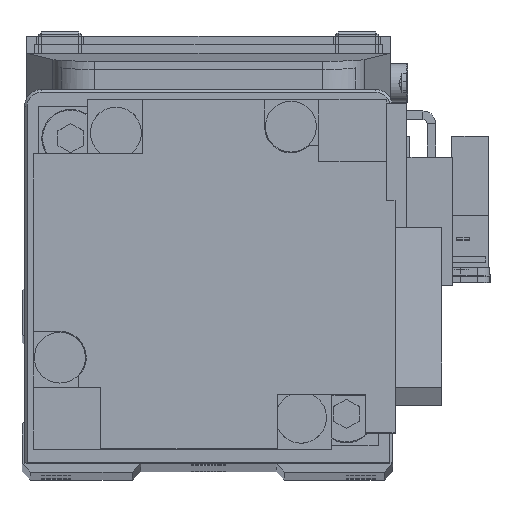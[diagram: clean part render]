
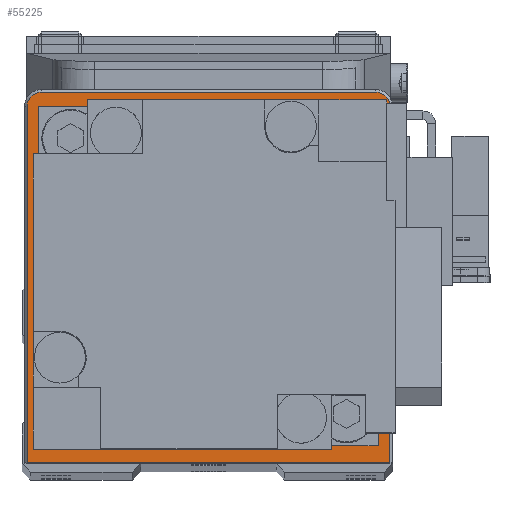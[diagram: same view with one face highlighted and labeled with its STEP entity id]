
A CAD part, top view. The second image highlights one B-rep face of the part: STEP entity #55225.
In plain terms, the highlighted planar face has unit normal (0, 0, 1).
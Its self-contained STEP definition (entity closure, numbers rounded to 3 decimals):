
#253 = LINE ( 'NONE', #28162, #53326 ) ;
#1161 = DIRECTION ( 'NONE',  ( 0., 1., 0. ) ) ;
#1368 = VERTEX_POINT ( 'NONE', #2123 ) ;
#2123 = CARTESIAN_POINT ( 'NONE',  ( -21.4, -6.974, 334. ) ) ;
#4319 = DIRECTION ( 'NONE',  ( 1., 0., 0. ) ) ;
#5510 = VERTEX_POINT ( 'NONE', #58757 ) ;
#5855 = ORIENTED_EDGE ( 'NONE', *, *, #12601, .T. ) ;
#8311 = LINE ( 'NONE', #20800, #64332 ) ;
#9810 = EDGE_CURVE ( 'NONE', #1368, #61694, #50701, .T. ) ;
#11026 = DIRECTION ( 'NONE',  ( 0., 0., 1. ) ) ;
#12172 = CARTESIAN_POINT ( 'NONE',  ( 21.4, -6.974, 334. ) ) ;
#12601 = EDGE_CURVE ( 'NONE', #5510, #70234, #253, .T. ) ;
#15730 = AXIS2_PLACEMENT_3D ( 'NONE', #70536, #52093, #52379 ) ;
#16902 = CARTESIAN_POINT ( 'NONE',  ( 19.7, 35.026, 334. ) ) ;
#17795 = VECTOR ( 'NONE', #69485, 1000. ) ;
#18855 = ORIENTED_EDGE ( 'NONE', *, *, #70977, .T. ) ;
#20540 = CARTESIAN_POINT ( 'NONE',  ( 21.4, 35.026, 334. ) ) ;
#20739 = EDGE_CURVE ( 'NONE', #81273, #50687, #52206, .T. ) ;
#20800 = CARTESIAN_POINT ( 'NONE',  ( -21.4, -6.974, 334. ) ) ;
#23684 = DIRECTION ( 'NONE',  ( 1., 0., 0. ) ) ;
#24510 = FACE_OUTER_BOUND ( 'NONE', #79321, .T. ) ;
#24793 = CARTESIAN_POINT ( 'NONE',  ( -21.7, -6.974, 334. ) ) ;
#28162 = CARTESIAN_POINT ( 'NONE',  ( -19.7, 36.726, 334. ) ) ;
#30080 = DIRECTION ( 'NONE',  ( 0., 0., 1. ) ) ;
#30354 = CARTESIAN_POINT ( 'NONE',  ( 0., 15.026, 334. ) ) ;
#32634 = CARTESIAN_POINT ( 'NONE',  ( 0., 15.026, 334. ) ) ;
#32657 = ORIENTED_EDGE ( 'NONE', *, *, #70965, .T. ) ;
#33113 = CIRCLE ( 'NONE', #76652, 10. ) ;
#34518 = ORIENTED_EDGE ( 'NONE', *, *, #58885, .F. ) ;
#34887 = DIRECTION ( 'NONE',  ( -1., 0., 0. ) ) ;
#34977 = CARTESIAN_POINT ( 'NONE',  ( -10., 15.026, 334. ) ) ;
#37368 = DIRECTION ( 'NONE',  ( 1., 0., 0. ) ) ;
#37952 = AXIS2_PLACEMENT_3D ( 'NONE', #32634, #45534, #39956 ) ;
#38582 = EDGE_CURVE ( 'NONE', #70234, #58014, #74634, .T. ) ;
#39563 = ORIENTED_EDGE ( 'NONE', *, *, #9810, .T. ) ;
#39956 = DIRECTION ( 'NONE',  ( 1., 0., 0. ) ) ;
#41231 = VERTEX_POINT ( 'NONE', #44928 ) ;
#43097 = AXIS2_PLACEMENT_3D ( 'NONE', #48843, #80391, #23684 ) ;
#43448 = AXIS2_PLACEMENT_3D ( 'NONE', #16902, #11026, #4319 ) ;
#43728 = CIRCLE ( 'NONE', #43448, 1.7 ) ;
#44928 = CARTESIAN_POINT ( 'NONE',  ( 21.4, 35.026, 334. ) ) ;
#45534 = DIRECTION ( 'NONE',  ( 0., 0., 1. ) ) ;
#45843 = ORIENTED_EDGE ( 'NONE', *, *, #38582, .T. ) ;
#46312 = VECTOR ( 'NONE', #1161, 1000. ) ;
#48843 = CARTESIAN_POINT ( 'NONE',  ( -19.7, 35.026, 334. ) ) ;
#49014 = EDGE_LOOP ( 'NONE', ( #70384, #34518 ) ) ;
#50687 = VERTEX_POINT ( 'NONE', #70410 ) ;
#50701 = LINE ( 'NONE', #24793, #17795 ) ;
#51496 = DIRECTION ( 'NONE',  ( 0., -1., 0. ) ) ;
#52093 = DIRECTION ( 'NONE',  ( 0., 0., 1. ) ) ;
#52206 = CIRCLE ( 'NONE', #37952, 10. ) ;
#52379 = DIRECTION ( 'NONE',  ( 1., 0., 0. ) ) ;
#53326 = VECTOR ( 'NONE', #34887, 1000. ) ;
#55225 = ADVANCED_FACE ( 'NONE', ( #24510, #77487 ), #77510, .T. ) ;
#58014 = VERTEX_POINT ( 'NONE', #69055 ) ;
#58757 = CARTESIAN_POINT ( 'NONE',  ( 19.7, 36.726, 334. ) ) ;
#58885 = EDGE_CURVE ( 'NONE', #50687, #81273, #33113, .T. ) ;
#61694 = VERTEX_POINT ( 'NONE', #12172 ) ;
#64332 = VECTOR ( 'NONE', #51496, 1000. ) ;
#64413 = EDGE_CURVE ( 'NONE', #41231, #5510, #43728, .T. ) ;
#67292 = LINE ( 'NONE', #20540, #46312 ) ;
#69055 = CARTESIAN_POINT ( 'NONE',  ( -21.4, 35.026, 334. ) ) ;
#69485 = DIRECTION ( 'NONE',  ( 1., 0., 0. ) ) ;
#70234 = VERTEX_POINT ( 'NONE', #74513 ) ;
#70384 = ORIENTED_EDGE ( 'NONE', *, *, #20739, .F. ) ;
#70410 = CARTESIAN_POINT ( 'NONE',  ( 10., 15.026, 334. ) ) ;
#70536 = CARTESIAN_POINT ( 'NONE',  ( 0., 15.026, 334. ) ) ;
#70965 = EDGE_CURVE ( 'NONE', #61694, #41231, #67292, .T. ) ;
#70977 = EDGE_CURVE ( 'NONE', #58014, #1368, #8311, .T. ) ;
#74513 = CARTESIAN_POINT ( 'NONE',  ( -19.7, 36.726, 334. ) ) ;
#74634 = CIRCLE ( 'NONE', #43097, 1.7 ) ;
#76652 = AXIS2_PLACEMENT_3D ( 'NONE', #30354, #30080, #37368 ) ;
#77487 = FACE_BOUND ( 'NONE', #49014, .T. ) ;
#77510 = PLANE ( 'NONE',  #15730 ) ;
#78718 = ORIENTED_EDGE ( 'NONE', *, *, #64413, .T. ) ;
#79321 = EDGE_LOOP ( 'NONE', ( #39563, #32657, #78718, #5855, #45843, #18855 ) ) ;
#80391 = DIRECTION ( 'NONE',  ( 0., 0., 1. ) ) ;
#81273 = VERTEX_POINT ( 'NONE', #34977 ) ;
